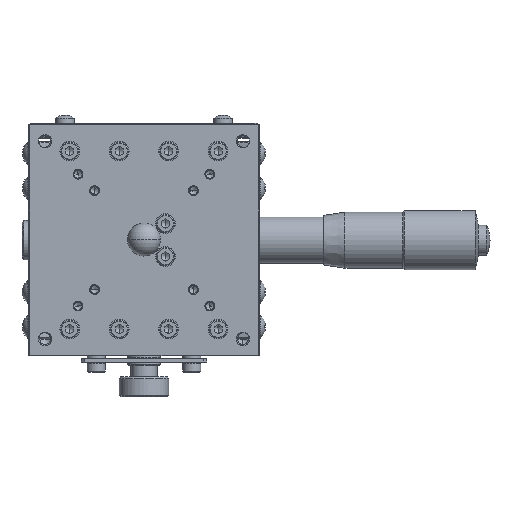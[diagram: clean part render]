
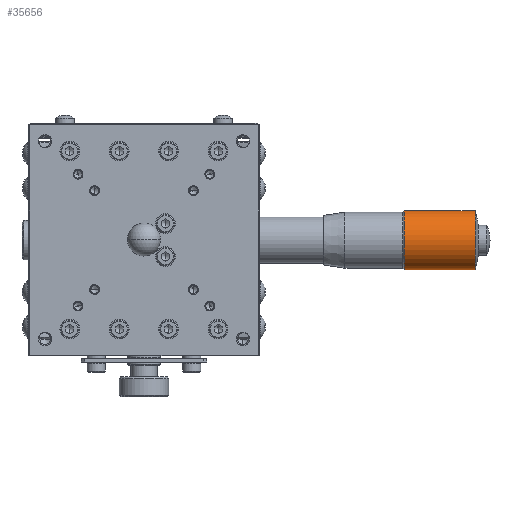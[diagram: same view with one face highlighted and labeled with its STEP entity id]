
A CAD part, top view. The second image highlights one B-rep face of the part: STEP entity #35656.
In plain terms, the highlighted cylindrical face has radius 9 mm (diameter 18 mm), a partial arc.
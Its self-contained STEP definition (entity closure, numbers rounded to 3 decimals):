
#4178 = CARTESIAN_POINT ( 'NONE',  ( 69.5, -9., 0. ) ) ;
#4220 = DIRECTION ( 'NONE',  ( -1., 0., 0. ) ) ;
#4221 = VECTOR ( 'NONE', #4220, 1000. ) ;
#4222 = CARTESIAN_POINT ( 'NONE',  ( -2.669, -9., 0. ) ) ;
#4223 = LINE ( 'NONE', #4222, #4221 ) ;
#4251 = DIRECTION ( 'NONE',  ( -1., 0., 0. ) ) ;
#4252 = AXIS2_PLACEMENT_3D ( 'NONE', #4258, #4251, #4314 ) ;
#4253 = CIRCLE ( 'NONE', #4252, 9. ) ;
#4258 = CARTESIAN_POINT ( 'NONE',  ( 69.5, 0., 0. ) ) ;
#4292 = DIRECTION ( 'NONE',  ( -1., 0., 0. ) ) ;
#4293 = VECTOR ( 'NONE', #4292, 1000. ) ;
#4294 = CARTESIAN_POINT ( 'NONE',  ( -2.669, 9., 0. ) ) ;
#4295 = LINE ( 'NONE', #4294, #4293 ) ;
#4296 = CARTESIAN_POINT ( 'NONE',  ( 91., 9., 0. ) ) ;
#4297 = CARTESIAN_POINT ( 'NONE',  ( 91., -9., 0. ) ) ;
#4298 = DIRECTION ( 'NONE',  ( 0., -1., 0. ) ) ;
#4299 = DIRECTION ( 'NONE',  ( -1., 0., 0. ) ) ;
#4300 = CARTESIAN_POINT ( 'NONE',  ( 91., 0., 0. ) ) ;
#4301 = AXIS2_PLACEMENT_3D ( 'NONE', #4300, #4299, #4298 ) ;
#4302 = DIRECTION ( 'NONE',  ( 0., -1., 0. ) ) ;
#4303 = DIRECTION ( 'NONE',  ( -1., 0., 0. ) ) ;
#4304 = CARTESIAN_POINT ( 'NONE',  ( -2.669, 0., 0. ) ) ;
#4305 = AXIS2_PLACEMENT_3D ( 'NONE', #4304, #4303, #4302 ) ;
#4306 = CIRCLE ( 'NONE', #4301, 9. ) ;
#4307 = CYLINDRICAL_SURFACE ( 'NONE', #4305, 9. ) ;
#4308 = FACE_OUTER_BOUND ( 'NONE', #35657, .T. ) ;
#4313 = CARTESIAN_POINT ( 'NONE',  ( 69.5, 9., 0. ) ) ;
#4314 = DIRECTION ( 'NONE',  ( 0., -1., 0. ) ) ;
#35595 = VERTEX_POINT ( 'NONE', #4178 ) ;
#35638 = EDGE_CURVE ( 'NONE', #35660, #35595, #4223, .T. ) ;
#35652 = EDGE_CURVE ( 'NONE', #35595, #35653, #4253, .T. ) ;
#35653 = VERTEX_POINT ( 'NONE', #4313 ) ;
#35656 = ADVANCED_FACE ( 'NONE', ( #4308 ), #4307, .T. ) ;
#35657 = EDGE_LOOP ( 'NONE', ( #35658, #35662, #35664, #35665 ) ) ;
#35658 = ORIENTED_EDGE ( 'NONE', *, *, #35659, .T. ) ;
#35659 = EDGE_CURVE ( 'NONE', #35660, #35661, #4306, .T. ) ;
#35660 = VERTEX_POINT ( 'NONE', #4297 ) ;
#35661 = VERTEX_POINT ( 'NONE', #4296 ) ;
#35662 = ORIENTED_EDGE ( 'NONE', *, *, #35663, .T. ) ;
#35663 = EDGE_CURVE ( 'NONE', #35661, #35653, #4295, .T. ) ;
#35664 = ORIENTED_EDGE ( 'NONE', *, *, #35652, .F. ) ;
#35665 = ORIENTED_EDGE ( 'NONE', *, *, #35638, .F. ) ;
